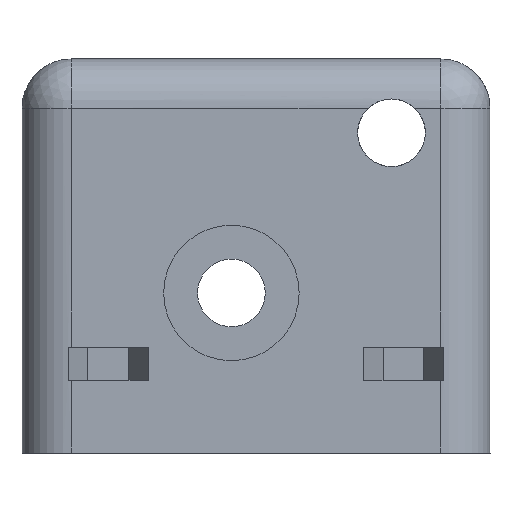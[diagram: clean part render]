
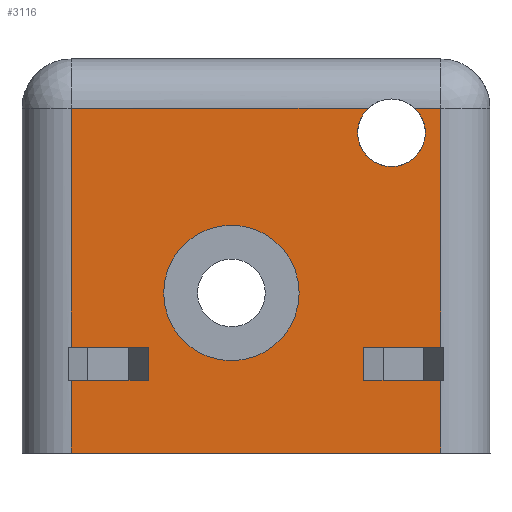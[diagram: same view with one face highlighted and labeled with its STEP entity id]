
A CAD part, front view. The second image highlights one B-rep face of the part: STEP entity #3116.
In plain terms, the highlighted planar face has unit normal (0, -1, 0).
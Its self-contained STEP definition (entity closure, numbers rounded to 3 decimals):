
#117=FACE_BOUND('',#520,.T.);
#204=PLANE('',#3318);
#345=FACE_OUTER_BOUND('',#519,.T.);
#519=EDGE_LOOP('',(#2512,#2513,#2514,#2515,#2516,#2517,#2518,#2519,#2520,
#2521,#2522,#2523,#2524,#2525));
#520=EDGE_LOOP('',(#2526));
#739=LINE('',#4997,#1049);
#741=LINE('',#5003,#1051);
#743=LINE('',#5008,#1053);
#744=LINE('',#5012,#1054);
#775=LINE('',#5079,#1085);
#777=LINE('',#5086,#1087);
#783=LINE('',#5105,#1093);
#784=LINE('',#5109,#1094);
#810=LINE('',#5244,#1120);
#811=LINE('',#5245,#1121);
#812=LINE('',#5246,#1122);
#813=LINE('',#5248,#1123);
#814=LINE('',#5249,#1124);
#1049=VECTOR('',#3673,10.);
#1051=VECTOR('',#3679,10.);
#1053=VECTOR('',#3685,10.);
#1054=VECTOR('',#3688,10.);
#1085=VECTOR('',#3745,10.);
#1087=VECTOR('',#3751,10.);
#1093=VECTOR('',#3771,10.);
#1094=VECTOR('',#3776,10.);
#1120=VECTOR('',#3856,10.);
#1121=VECTOR('',#3857,10.);
#1122=VECTOR('',#3858,10.);
#1123=VECTOR('',#3859,10.);
#1124=VECTOR('',#3860,10.);
#1256=CIRCLE('',#3269,5.5);
#1273=CIRCLE('',#3317,2.75);
#1463=VERTEX_POINT('',#4994);
#1464=VERTEX_POINT('',#4996);
#1466=VERTEX_POINT('',#5002);
#1467=VERTEX_POINT('',#5006);
#1468=VERTEX_POINT('',#5010);
#1469=VERTEX_POINT('',#5011);
#1470=VERTEX_POINT('',#5016);
#1492=VERTEX_POINT('',#5078);
#1495=VERTEX_POINT('',#5084);
#1501=VERTEX_POINT('',#5104);
#1502=VERTEX_POINT('',#5108);
#1526=VERTEX_POINT('',#5227);
#1527=VERTEX_POINT('',#5234);
#1528=VERTEX_POINT('',#5243);
#1529=VERTEX_POINT('',#5247);
#1808=EDGE_CURVE('',#1464,#1463,#739,.F.);
#1811=EDGE_CURVE('',#1466,#1464,#741,.T.);
#1814=EDGE_CURVE('',#1467,#1466,#743,.T.);
#1815=EDGE_CURVE('',#1468,#1469,#744,.T.);
#1818=EDGE_CURVE('',#1470,#1470,#1256,.F.);
#1848=EDGE_CURVE('',#1467,#1492,#775,.T.);
#1852=EDGE_CURVE('',#1495,#1463,#777,.T.);
#1861=EDGE_CURVE('',#1469,#1501,#783,.T.);
#1863=EDGE_CURVE('',#1502,#1468,#784,.F.);
#1903=EDGE_CURVE('',#1526,#1527,#1273,.T.);
#1905=EDGE_CURVE('',#1528,#1501,#810,.T.);
#1906=EDGE_CURVE('',#1527,#1528,#811,.T.);
#1907=EDGE_CURVE('',#1492,#1526,#812,.T.);
#1908=EDGE_CURVE('',#1529,#1495,#813,.T.);
#1909=EDGE_CURVE('',#1502,#1529,#814,.T.);
#2512=ORIENTED_EDGE('',*,*,#1863,.T.);
#2513=ORIENTED_EDGE('',*,*,#1815,.T.);
#2514=ORIENTED_EDGE('',*,*,#1861,.T.);
#2515=ORIENTED_EDGE('',*,*,#1905,.F.);
#2516=ORIENTED_EDGE('',*,*,#1906,.F.);
#2517=ORIENTED_EDGE('',*,*,#1903,.F.);
#2518=ORIENTED_EDGE('',*,*,#1907,.F.);
#2519=ORIENTED_EDGE('',*,*,#1848,.F.);
#2520=ORIENTED_EDGE('',*,*,#1814,.T.);
#2521=ORIENTED_EDGE('',*,*,#1811,.T.);
#2522=ORIENTED_EDGE('',*,*,#1808,.T.);
#2523=ORIENTED_EDGE('',*,*,#1852,.F.);
#2524=ORIENTED_EDGE('',*,*,#1908,.F.);
#2525=ORIENTED_EDGE('',*,*,#1909,.F.);
#2526=ORIENTED_EDGE('',*,*,#1818,.T.);
#3116=ADVANCED_FACE('',(#345,#117),#204,.F.);
#3269=AXIS2_PLACEMENT_3D('',#5017,#3693,#3694);
#3317=AXIS2_PLACEMENT_3D('',#5235,#3852,#3853);
#3318=AXIS2_PLACEMENT_3D('',#5242,#3854,#3855);
#3673=DIRECTION('',(0.,0.,-1.));
#3679=DIRECTION('',(-1.,0.,0.));
#3685=DIRECTION('',(0.,0.,-1.));
#3688=DIRECTION('',(1.,0.,0.));
#3693=DIRECTION('center_axis',(0.,-1.,0.));
#3694=DIRECTION('ref_axis',(1.,0.,0.));
#3745=DIRECTION('',(1.,0.,0.));
#3751=DIRECTION('',(1.,0.,0.));
#3771=DIRECTION('',(0.,0.,-1.));
#3776=DIRECTION('',(0.,0.,-1.));
#3852=DIRECTION('center_axis',(0.,-1.,0.));
#3853=DIRECTION('ref_axis',(-1.,0.,0.));
#3854=DIRECTION('center_axis',(0.,1.,0.));
#3855=DIRECTION('ref_axis',(-1.,0.,0.));
#3856=DIRECTION('',(-1.,0.,0.));
#3857=DIRECTION('',(0.,0.,-1.));
#3858=DIRECTION('',(0.,0.,-1.));
#3859=DIRECTION('',(0.,0.,1.));
#3860=DIRECTION('',(-1.,0.,0.));
#4994=CARTESIAN_POINT('',(-326.1,306.,-151.));
#4996=CARTESIAN_POINT('',(-326.1,306.,-157.25));
#4997=CARTESIAN_POINT('',(-326.1,306.,-169.25));
#5002=CARTESIAN_POINT('',(-323.4,306.,-157.25));
#5003=CARTESIAN_POINT('',(-233.535,306.,-157.25));
#5006=CARTESIAN_POINT('',(-323.4,306.,-151.));
#5008=CARTESIAN_POINT('',(-323.4,306.,-169.25));
#5010=CARTESIAN_POINT('',(-326.1,306.,-174.75));
#5011=CARTESIAN_POINT('',(-323.4,306.,-174.75));
#5012=CARTESIAN_POINT('',(-233.535,306.,-174.75));
#5016=CARTESIAN_POINT('',(-324.5,306.,-164.));
#5017=CARTESIAN_POINT('Origin',(-319.,306.,-164.));
#5078=CARTESIAN_POINT('',(-304.,306.,-151.));
#5079=CARTESIAN_POINT('',(-249.535,306.,-151.));
#5084=CARTESIAN_POINT('',(-332.,306.,-151.));
#5086=CARTESIAN_POINT('',(-249.535,306.,-151.));
#5104=CARTESIAN_POINT('',(-323.4,306.,-181.));
#5105=CARTESIAN_POINT('',(-323.4,306.,-169.25));
#5108=CARTESIAN_POINT('',(-326.1,306.,-181.));
#5109=CARTESIAN_POINT('',(-326.1,306.,-169.25));
#5227=CARTESIAN_POINT('',(-304.,306.,-175.113));
#5234=CARTESIAN_POINT('',(-304.,306.,-178.887));
#5235=CARTESIAN_POINT('Origin',(-306.,306.,-177.));
#5242=CARTESIAN_POINT('Origin',(-167.07,306.,-160.));
#5243=CARTESIAN_POINT('',(-304.,306.,-181.));
#5244=CARTESIAN_POINT('',(-233.535,306.,-181.));
#5245=CARTESIAN_POINT('',(-304.,306.,-153.5));
#5246=CARTESIAN_POINT('',(-304.,306.,-153.5));
#5247=CARTESIAN_POINT('',(-332.,306.,-181.));
#5248=CARTESIAN_POINT('',(-332.,306.,-172.5));
#5249=CARTESIAN_POINT('',(-233.535,306.,-181.));
